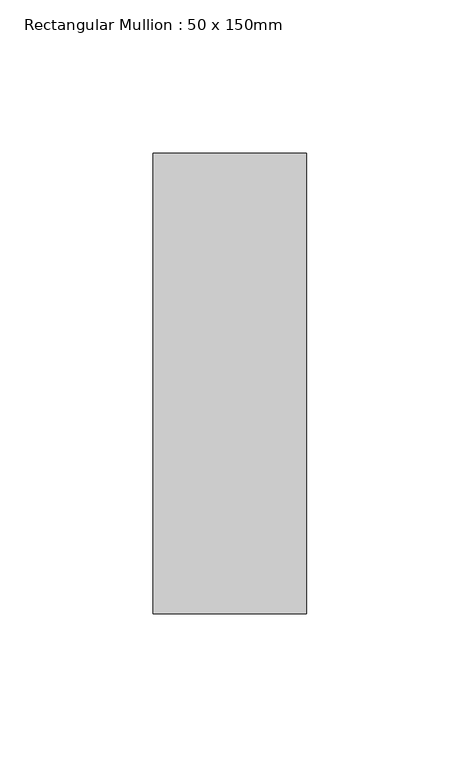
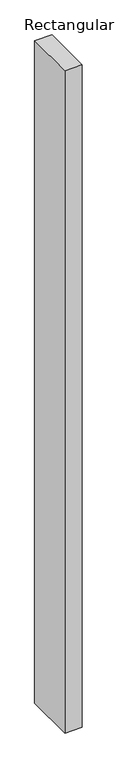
"""IFC4 building model written with IfcOpenShell, lengths in millimetres: member geometry, Rectangular Mullion : 50 x 150mm."""

from ifc_helpers import new_model, si_unit, frame, origin, place, context, project, spatial, polyline, outline, extrude, source, transform, mapped, element, save


def rectangular_mullion_50_x_150mm_c664ab49(model_context):
    return source(origin(), model_context, "Body", "SweptSolid", [
        extrude(outline(polyline([(25.0, 75.0), (25.0, -75.0), (-25.0, -75.0), (-25.0, 75.0), (25.0, 75.0)])), frame((0.0, 0.0, -2015.2), z_axis=(0.0, 0.0, 1.0), x_axis=(1.0, 0.0, 0.0)), (0.0, 0.0, 1.0), 2015.2),
    ])


if __name__ == "__main__":
    model = new_model("IFC4")
    model_context = context("Model", 3, world=origin())
    ifc_project = project(units=[si_unit("LENGTHUNIT", "METRE", prefix="MILLI")], contexts=[model_context])
    site = spatial("IfcSite", under=ifc_project)
    building = spatial("IfcBuilding", under=site)
    placement = place(None, origin())
    rectangular_mullion_50_x_150mm_shape = rectangular_mullion_50_x_150mm_c664ab49(model_context)
    element("IfcMember", 1, ObjectType="Rectangular Mullion : 50 x 150mm", at=placement, inside=building, context=model_context, shape_type="MappedRepresentation", body=[
        mapped(rectangular_mullion_50_x_150mm_shape, transform((0.0, 0.0, 0.0), x_axis=(1.0, 0.0, 0.0), y_axis=(0.0, 1.0, 0.0), z_axis=(0.0, 0.0, 1.0))),
    ])
    save(model, "model.ifc")
